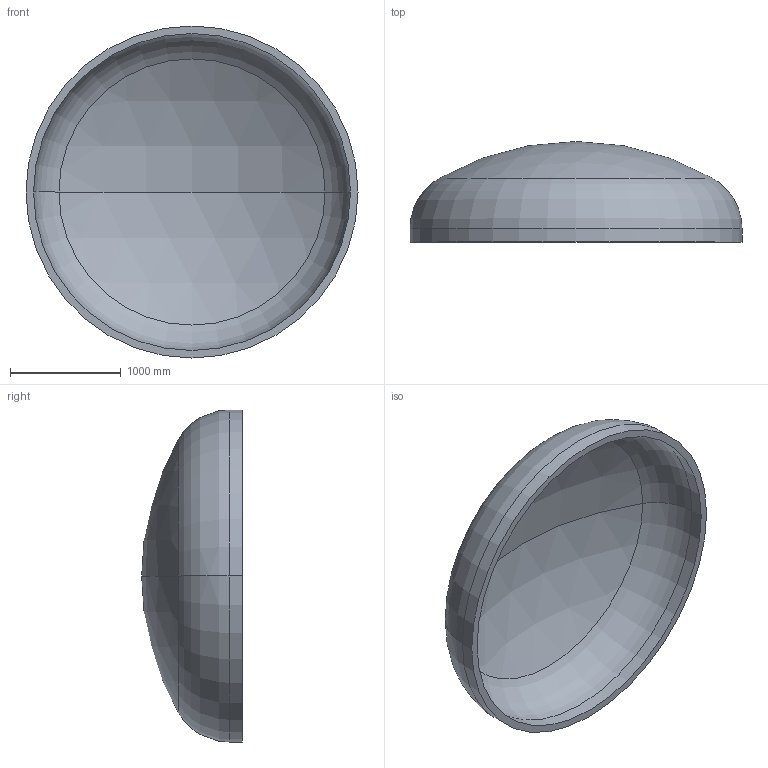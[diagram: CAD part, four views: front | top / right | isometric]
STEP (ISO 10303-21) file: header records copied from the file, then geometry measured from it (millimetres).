
FILE_DESCRIPTION (( 'STEP AP203' ), '1' );
FILE_NAME ('DIN 28013 Korbbogenform_-_Boden DIN 28013 - 3000 x 120 - I - s=68.step', '2016-07-01T17:57:19', ( '' ), ( '' ), 'SwSTEP 2.0', 'SolidWorks 2013', '' );
FILE_SCHEMA (( 'CONFIG_CONTROL_DESIGN' ));
Length unit declared in the file: millimetre
Products named in the file (1): DIN 28013 Korbbogenform_-_Boden DIN 28013 - 3000 x 120 - I - s=68
Bounding box: 3000 x 909.07 x 3000 mm (x, y, z)
Volume: 720783495.5 mm3; surface area: 21835550.1 mm2
Topology: 1 solids, 1 shells, 13 faces, 24 edges, 14 vertices
Faces by surface type: torus 4, cylinder 4, sphere 4, plane 1
Entity records: 407 total; most frequent: DIRECTION 72, CARTESIAN_POINT 52, ORIENTED_EDGE 48, AXIS2_PLACEMENT_3D 34, EDGE_CURVE 24, CIRCLE 20, EDGE_LOOP 14, VERTEX_POINT 14
